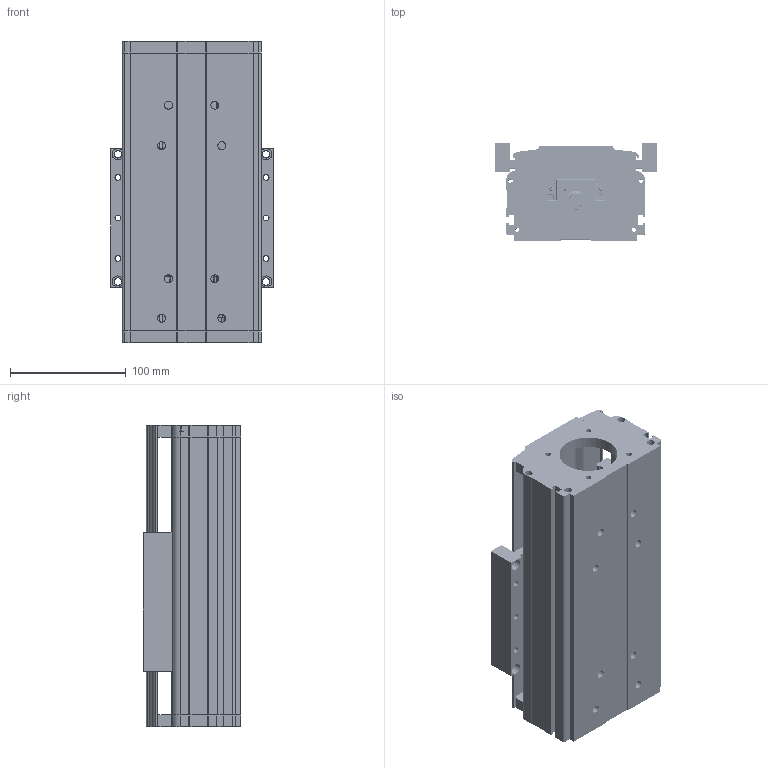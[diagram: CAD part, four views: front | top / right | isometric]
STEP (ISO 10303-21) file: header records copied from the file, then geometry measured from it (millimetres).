
FILE_DESCRIPTION (( 'STEP AP203' ), '1' );
FILE_NAME ('CF120-P50.STEP', '2016-03-10T08:53:30', ( 'Sky123.Org' ), ( 'Sky123.Org' ), 'SwSTEP 2.0', 'SolidWorks 2015', '' );
FILE_SCHEMA (( 'CONFIG_CONTROL_DESIGN' ));
Length unit declared in the file: millimetre
Products named in the file (15): CF120賑雄啣; cf120-60萇儂釱; CF120蹟譫釱; CF120傷裔耜啣-sigan; EGR15-P600-880; EGH-15-CABZnew; EK12+EF12-P600-744; SFU1605-3蹟譫; CF120-P350-540臏倰第; EK12; CF120-P350-560裔啣; 粣創結啣; CF120-P50; EF12
Assembly tree (18 placements, depth 3):
  CF120-P50
    cf120-60萇儂釱
    CF120傷裔耜啣-sigan
    EGH-15-CABZnew  x4
    SFU1605-3蹟譫
    EK12
      EK12
      粣創結啣
    EF12
    CF120賑雄啣
    CF120蹟譫釱
    EGR15-P600-880  x2
    EK12+EF12-P600-744
    CF120-P350-540臏倰第
    CF120-P350-560裔啣
Bounding box: 140 x 84.5 x 260 mm (x, y, z)
Volume: 1259124.3 mm3; surface area: 468917.4 mm2
Topology: 13 solids, 65 shells, 7212 faces, 27285 edges, 18759 vertices
Faces by surface type: plane 3527, bspline 2351, cylinder 944, cone 150, torus 136, sphere 104
Entity records: 128092 total; most frequent: CARTESIAN_POINT 57069, ORIENTED_EDGE 15176, DIRECTION 11762, EDGE_CURVE 8712, VERTEX_POINT 5940, LINE 5136, VECTOR 5136, AXIS2_PLACEMENT_3D 3313
